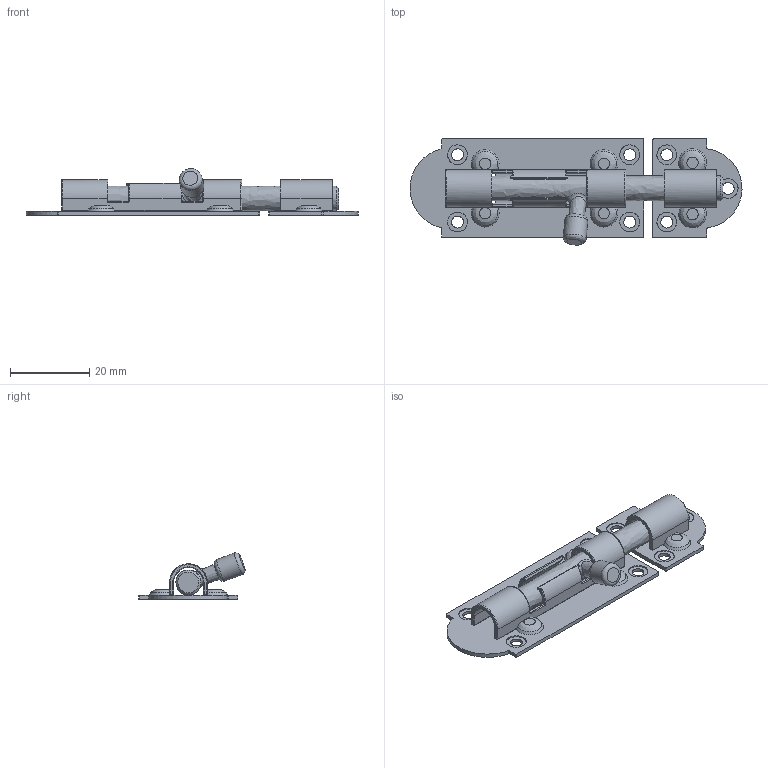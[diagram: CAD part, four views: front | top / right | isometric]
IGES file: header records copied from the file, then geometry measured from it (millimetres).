
Global section: file name: DR_ODS3-3; native system: Autodesk Inventor 2015; preprocessor: unknown; author: Administrator; date: 20170904.083147; units: millimetre
Bounding box: 83.86 x 26.82 x 11.79 mm (x, y, z)
Volume: 4974.2 mm3; surface area: 7795.1 mm2
Topology: 5 solids, 5 shells, 548 faces, 1364 edges, 832 vertices
Faces by surface type: bspline 548
